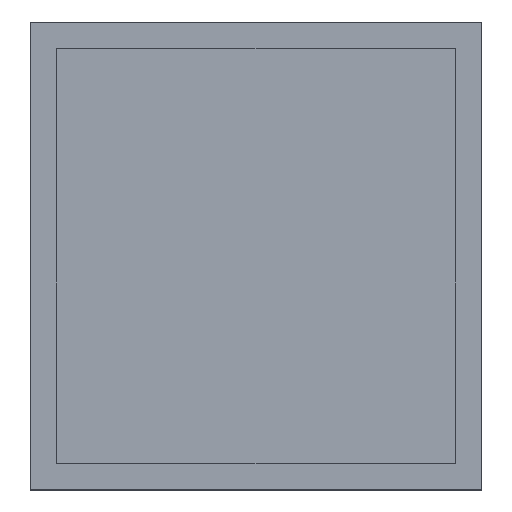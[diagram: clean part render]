
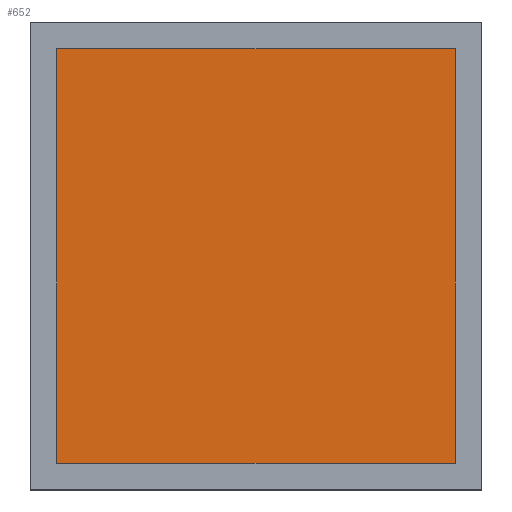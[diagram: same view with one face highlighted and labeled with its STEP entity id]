
A CAD part, top view. The second image highlights one B-rep face of the part: STEP entity #652.
In plain terms, the highlighted planar face has unit normal (0, 0, 1).
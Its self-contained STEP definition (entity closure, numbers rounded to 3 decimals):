
#282 = PLANE('',#283);
#283 = AXIS2_PLACEMENT_3D('',#284,#285,#286);
#284 = CARTESIAN_POINT('',(-24.25,-25.25,3.));
#285 = DIRECTION('',(-0.,1.,0.));
#286 = DIRECTION('',(0.,0.,1.));
#308 = PLANE('',#309);
#309 = AXIS2_PLACEMENT_3D('',#310,#311,#312);
#310 = CARTESIAN_POINT('',(-24.25,-25.25,3.));
#311 = DIRECTION('',(1.,0.,-0.));
#312 = DIRECTION('',(0.,0.,1.));
#334 = PLANE('',#335);
#335 = AXIS2_PLACEMENT_3D('',#336,#337,#338);
#336 = CARTESIAN_POINT('',(-24.25,25.25,3.));
#337 = DIRECTION('',(-0.,1.,0.));
#338 = DIRECTION('',(0.,0.,1.));
#358 = PLANE('',#359);
#359 = AXIS2_PLACEMENT_3D('',#360,#361,#362);
#360 = CARTESIAN_POINT('',(24.25,-25.25,3.));
#361 = DIRECTION('',(1.,0.,-0.));
#362 = DIRECTION('',(0.,0.,1.));
#456 = VERTEX_POINT('',#457);
#457 = CARTESIAN_POINT('',(24.25,-25.25,3.));
#478 = EDGE_CURVE('',#479,#456,#481,.T.);
#479 = VERTEX_POINT('',#480);
#480 = CARTESIAN_POINT('',(-24.25,-25.25,3.));
#481 = SURFACE_CURVE('',#482,(#486,#493),.PCURVE_S1.);
#482 = LINE('',#483,#484);
#483 = CARTESIAN_POINT('',(-24.25,-25.25,3.));
#484 = VECTOR('',#485,1.);
#485 = DIRECTION('',(1.,0.,-0.));
#486 = PCURVE('',#282,#487);
#487 = DEFINITIONAL_REPRESENTATION('',(#488),#492);
#488 = LINE('',#489,#490);
#489 = CARTESIAN_POINT('',(0.,0.));
#490 = VECTOR('',#491,1.);
#491 = DIRECTION('',(0.,1.));
#492 = ( GEOMETRIC_REPRESENTATION_CONTEXT(2) 
PARAMETRIC_REPRESENTATION_CONTEXT() REPRESENTATION_CONTEXT('2D SPACE',''
  ) );
#493 = PCURVE('',#494,#499);
#494 = PLANE('',#495);
#495 = AXIS2_PLACEMENT_3D('',#496,#497,#498);
#496 = CARTESIAN_POINT('',(-24.25,-25.25,3.));
#497 = DIRECTION('',(0.,0.,1.));
#498 = DIRECTION('',(1.,0.,-0.));
#499 = DEFINITIONAL_REPRESENTATION('',(#500),#504);
#500 = LINE('',#501,#502);
#501 = CARTESIAN_POINT('',(0.,0.));
#502 = VECTOR('',#503,1.);
#503 = DIRECTION('',(1.,0.));
#504 = ( GEOMETRIC_REPRESENTATION_CONTEXT(2) 
PARAMETRIC_REPRESENTATION_CONTEXT() REPRESENTATION_CONTEXT('2D SPACE',''
  ) );
#532 = EDGE_CURVE('',#456,#533,#535,.T.);
#533 = VERTEX_POINT('',#534);
#534 = CARTESIAN_POINT('',(24.25,25.25,3.));
#535 = SURFACE_CURVE('',#536,(#540,#547),.PCURVE_S1.);
#536 = LINE('',#537,#538);
#537 = CARTESIAN_POINT('',(24.25,-25.25,3.));
#538 = VECTOR('',#539,1.);
#539 = DIRECTION('',(-0.,1.,0.));
#540 = PCURVE('',#358,#541);
#541 = DEFINITIONAL_REPRESENTATION('',(#542),#546);
#542 = LINE('',#543,#544);
#543 = CARTESIAN_POINT('',(0.,0.));
#544 = VECTOR('',#545,1.);
#545 = DIRECTION('',(0.,-1.));
#546 = ( GEOMETRIC_REPRESENTATION_CONTEXT(2) 
PARAMETRIC_REPRESENTATION_CONTEXT() REPRESENTATION_CONTEXT('2D SPACE',''
  ) );
#547 = PCURVE('',#494,#548);
#548 = DEFINITIONAL_REPRESENTATION('',(#549),#553);
#549 = LINE('',#550,#551);
#550 = CARTESIAN_POINT('',(48.5,0.));
#551 = VECTOR('',#552,1.);
#552 = DIRECTION('',(0.,1.));
#553 = ( GEOMETRIC_REPRESENTATION_CONTEXT(2) 
PARAMETRIC_REPRESENTATION_CONTEXT() REPRESENTATION_CONTEXT('2D SPACE',''
  ) );
#581 = EDGE_CURVE('',#582,#533,#584,.T.);
#582 = VERTEX_POINT('',#583);
#583 = CARTESIAN_POINT('',(-24.25,25.25,3.));
#584 = SURFACE_CURVE('',#585,(#589,#596),.PCURVE_S1.);
#585 = LINE('',#586,#587);
#586 = CARTESIAN_POINT('',(-24.25,25.25,3.));
#587 = VECTOR('',#588,1.);
#588 = DIRECTION('',(1.,0.,-0.));
#589 = PCURVE('',#334,#590);
#590 = DEFINITIONAL_REPRESENTATION('',(#591),#595);
#591 = LINE('',#592,#593);
#592 = CARTESIAN_POINT('',(0.,0.));
#593 = VECTOR('',#594,1.);
#594 = DIRECTION('',(0.,1.));
#595 = ( GEOMETRIC_REPRESENTATION_CONTEXT(2) 
PARAMETRIC_REPRESENTATION_CONTEXT() REPRESENTATION_CONTEXT('2D SPACE',''
  ) );
#596 = PCURVE('',#494,#597);
#597 = DEFINITIONAL_REPRESENTATION('',(#598),#602);
#598 = LINE('',#599,#600);
#599 = CARTESIAN_POINT('',(0.,50.5));
#600 = VECTOR('',#601,1.);
#601 = DIRECTION('',(1.,0.));
#602 = ( GEOMETRIC_REPRESENTATION_CONTEXT(2) 
PARAMETRIC_REPRESENTATION_CONTEXT() REPRESENTATION_CONTEXT('2D SPACE',''
  ) );
#630 = EDGE_CURVE('',#479,#582,#631,.T.);
#631 = SURFACE_CURVE('',#632,(#636,#643),.PCURVE_S1.);
#632 = LINE('',#633,#634);
#633 = CARTESIAN_POINT('',(-24.25,-25.25,3.));
#634 = VECTOR('',#635,1.);
#635 = DIRECTION('',(-0.,1.,0.));
#636 = PCURVE('',#308,#637);
#637 = DEFINITIONAL_REPRESENTATION('',(#638),#642);
#638 = LINE('',#639,#640);
#639 = CARTESIAN_POINT('',(0.,0.));
#640 = VECTOR('',#641,1.);
#641 = DIRECTION('',(0.,-1.));
#642 = ( GEOMETRIC_REPRESENTATION_CONTEXT(2) 
PARAMETRIC_REPRESENTATION_CONTEXT() REPRESENTATION_CONTEXT('2D SPACE',''
  ) );
#643 = PCURVE('',#494,#644);
#644 = DEFINITIONAL_REPRESENTATION('',(#645),#649);
#645 = LINE('',#646,#647);
#646 = CARTESIAN_POINT('',(0.,0.));
#647 = VECTOR('',#648,1.);
#648 = DIRECTION('',(0.,1.));
#649 = ( GEOMETRIC_REPRESENTATION_CONTEXT(2) 
PARAMETRIC_REPRESENTATION_CONTEXT() REPRESENTATION_CONTEXT('2D SPACE',''
  ) );
#652 = ADVANCED_FACE('',(#653),#494,.T.);
#653 = FACE_BOUND('',#654,.T.);
#654 = EDGE_LOOP('',(#655,#656,#657,#658));
#655 = ORIENTED_EDGE('',*,*,#630,.F.);
#656 = ORIENTED_EDGE('',*,*,#478,.T.);
#657 = ORIENTED_EDGE('',*,*,#532,.T.);
#658 = ORIENTED_EDGE('',*,*,#581,.F.);
